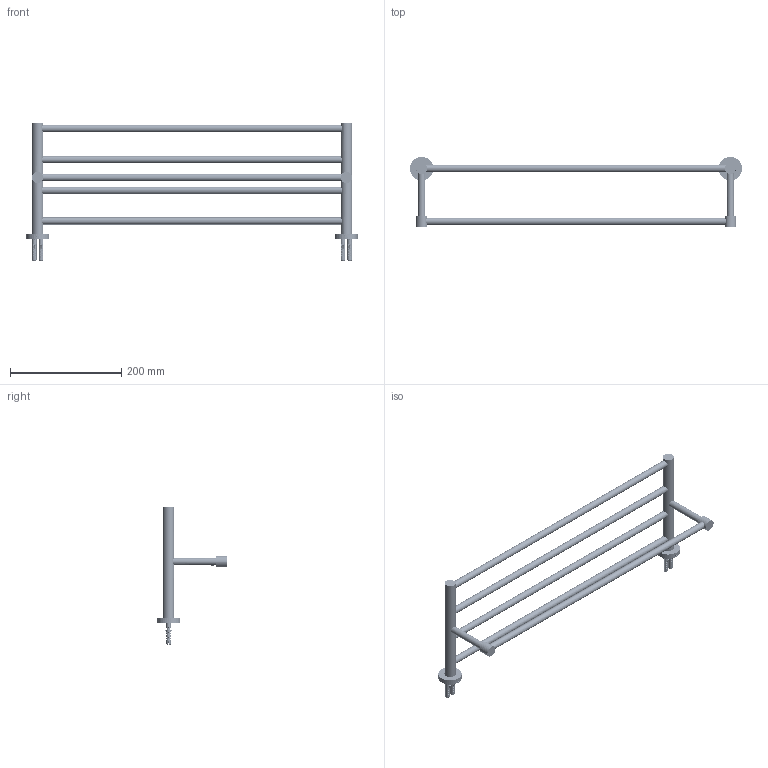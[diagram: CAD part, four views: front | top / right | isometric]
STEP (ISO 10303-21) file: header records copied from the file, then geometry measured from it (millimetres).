
FILE_DESCRIPTION(/* description */ (''),/* implementation_level */ '2;1');
FILE_NAME(/* name */ 'c:\worker\convert-fusion-mar-2019\tmp\job-1\3\output\files\52dc4586-92a4-413a-be5a-8608fa678e6d\ef7d17a2-75fa-49bb-948f-6f008900509d.zip.stp',/* time_stamp */ '2019-03-22T07:49:58+00:00',/* author */ (''),/* organization */ (''),/* preprocessor_version */ 'ST-DEVELOPER v17.2',/* originating_system */ 'Autodesk Translation Framework v7.6.0.251',/* authorisation */ '');
FILE_SCHEMA (('AUTOMOTIVE_DESIGN { 1 0 10303 214 3 1 1 }'));
Length unit declared in the file: millimetre
Products named in the file (1): !MP60920
Bounding box: 596 x 126 x 248 mm (x, y, z)
Volume: 131139.3 mm3; surface area: 327796.5 mm2
Topology: 37 solids, 37 shells, 1456 faces, 3954 edges, 2602 vertices
Faces by surface type: cylinder 592, plane 460, bspline 304, cone 86, torus 12, sphere 2
Full cylindrical faces by diameter (mm): 3.3 x4, 3.8 x124, 4 x28, 4.2 x14, 5 x260, 5.126 x4, 5.2 x2, 6 x22, 7 x6, 7.5 x4, 8 x4, 10 x2, 11.2 x2, 11.5 x9, 12.7 x9, 12.8 x10, 16 x2, 18.2 x2, 18.9 x2, 20 x4, 20.2 x4, 42 x2
Entity records: 171774 total; most frequent: CARTESIAN_POINT 138452, ORIENTED_EDGE 7884, DIRECTION 5236, EDGE_CURVE 3942, VERTEX_POINT 2604, AXIS2_PLACEMENT_3D 1779, LINE 1678, VECTOR 1678
